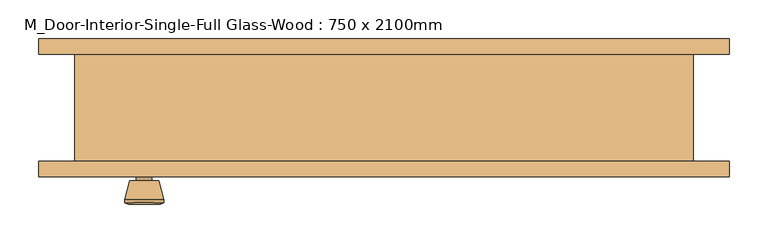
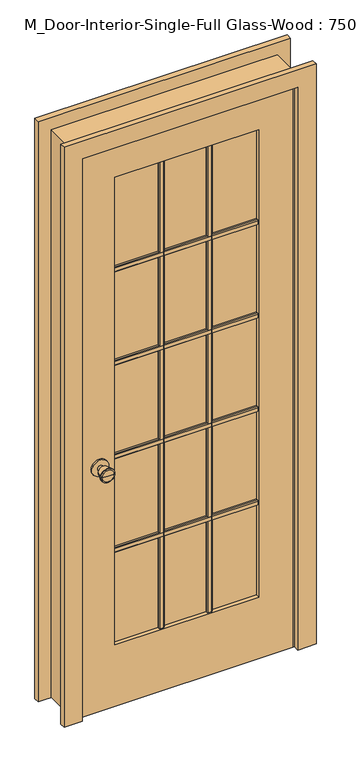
"""IFC4 building model written with IfcOpenShell, lengths in millimetres: door geometry, M_Door-Interior-Single-Full Glass-Wood : 750 x 2100mm."""

from ifc_helpers import new_model, si_unit, point, frame, frame_2d, origin, place, context, project, spatial, polyline, circle_curve, trimmed, segment, composite_curve, outline, extrude, faceted_brep, source, transform, mapped, element, save
from ifc_brep_helpers import plane_surface, cylinder_surface, revolved_surface, advanced_brep


def m_door_interior_single_full_glass_wood_750_x_2100mm_01f99739(model_context):
    return source(origin(), model_context, "Body", "SolidModel", [
        extrude(outline(polyline([(-52.075, 1639.525), (-52.075, 1620.475), (-58.425, 1620.475), (-61.6, 1623.65), (-61.6, 1636.35), (-58.425, 1639.525), (-52.075, 1639.525)])), frame((-255.0, 0.0, 0.0), z_axis=(1.0, 0.0, 0.0), x_axis=(0.0, 1.0, 0.0)), (0.0, 0.0, 1.0), 510.0),
        extrude(outline(polyline([(-52.075, 1289.525), (-52.075, 1270.475), (-58.425, 1270.475), (-61.6, 1273.65), (-61.6, 1286.35), (-58.425, 1289.525), (-52.075, 1289.525)])), frame((-255.0, 0.0, 0.0), z_axis=(1.0, 0.0, 0.0), x_axis=(0.0, 1.0, 0.0)), (0.0, 0.0, 1.0), 510.0),
        extrude(outline(polyline([(-52.075, 939.525), (-52.075, 920.475), (-58.425, 920.475), (-61.6, 923.65), (-61.6, 936.35), (-58.425, 939.525), (-52.075, 939.525)])), frame((-255.0, 0.0, 0.0), z_axis=(1.0, 0.0, 0.0), x_axis=(0.0, 1.0, 0.0)), (0.0, 0.0, 1.0), 510.0),
        extrude(outline(polyline([(-52.075, 589.525), (-52.075, 570.475), (-58.425, 570.475), (-61.6, 573.65), (-61.6, 586.35), (-58.425, 589.525), (-52.075, 589.525)])), frame((-255.0, 0.0, 0.0), z_axis=(1.0, 0.0, 0.0), x_axis=(0.0, 1.0, 0.0)), (0.0, 0.0, 1.0), 510.0),
        extrude(outline(polyline([(75.475, -52.075), (94.525, -52.075), (94.525, -58.425), (91.35, -61.6), (78.65, -61.6), (75.475, -58.425), (75.475, -52.075)])), frame((0.0, 0.0, 230.0), z_axis=(0.0, 0.0, 1.0), x_axis=(1.0, 0.0, 0.0)), (0.0, 0.0, 1.0), 1750.0),
        extrude(outline(polyline([(-94.525, -52.075), (-75.475, -52.075), (-75.475, -58.425), (-78.65, -61.6), (-91.35, -61.6), (-94.525, -58.425), (-94.525, -52.075)])), frame((0.0, 0.0, 230.0), z_axis=(0.0, 0.0, 1.0), x_axis=(1.0, 0.0, 0.0)), (0.0, 0.0, 1.0), 1750.0),
        extrude(outline(polyline([(-45.075, 1639.525), (-38.725, 1639.525), (-35.55, 1636.35), (-35.55, 1623.65), (-38.725, 1620.475), (-45.075, 1620.475), (-45.075, 1639.525)])), frame((-255.0, 0.0, 0.0), z_axis=(1.0, 0.0, 0.0), x_axis=(0.0, 1.0, 0.0)), (0.0, 0.0, 1.0), 510.0),
        extrude(outline(polyline([(-45.075, 1289.525), (-38.725, 1289.525), (-35.55, 1286.35), (-35.55, 1273.65), (-38.725, 1270.475), (-45.075, 1270.475), (-45.075, 1289.525)])), frame((-255.0, 0.0, 0.0), z_axis=(1.0, 0.0, 0.0), x_axis=(0.0, 1.0, 0.0)), (0.0, 0.0, 1.0), 510.0),
        extrude(outline(polyline([(-45.075, 939.525), (-38.725, 939.525), (-35.55, 936.35), (-35.55, 923.65), (-38.725, 920.475), (-45.075, 920.475), (-45.075, 939.525)])), frame((-255.0, 0.0, 0.0), z_axis=(1.0, 0.0, 0.0), x_axis=(0.0, 1.0, 0.0)), (0.0, 0.0, 1.0), 510.0),
        extrude(outline(polyline([(-45.075, 589.525), (-38.725, 589.525), (-35.55, 586.35), (-35.55, 573.65), (-38.725, 570.475), (-45.075, 570.475), (-45.075, 589.525)])), frame((-255.0, 0.0, 0.0), z_axis=(1.0, 0.0, 0.0), x_axis=(0.0, 1.0, 0.0)), (0.0, 0.0, 1.0), 510.0),
        extrude(outline(polyline([(75.475, -45.075), (75.475, -38.725), (78.65, -35.55), (91.35, -35.55), (94.525, -38.725), (94.525, -45.075), (75.475, -45.075)])), frame((0.0, 0.0, 230.0), z_axis=(0.0, 0.0, 1.0), x_axis=(1.0, 0.0, 0.0)), (0.0, 0.0, 1.0), 1750.0),
        extrude(outline(polyline([(-94.525, -45.075), (-94.525, -38.725), (-91.35, -35.55), (-78.65, -35.55), (-75.475, -38.725), (-75.475, -45.075), (-94.525, -45.075)])), frame((0.0, 0.0, 230.0), z_axis=(0.0, 0.0, 1.0), x_axis=(1.0, 0.0, 0.0)), (0.0, 0.0, 1.0), 1750.0),
        advanced_brep(
        [(-310.0, -25.075, 914.4), (-320.0, -25.075, 914.4), (-300.0, -25.075, 914.4), (-289.5241324, 23.925, 914.4), (-330.4758676, 23.925, 914.4), (-310.0, 23.925, 914.4), (-285.0, 22.0971319, 914.4), (-335.0, 22.0971319, 914.4), (-285.0, 18.6334537, 914.4), (-335.0, 18.6334537, 914.4), (-291.363764, -6.075, 914.4), (-328.636236, -6.075, 914.4), (-300.0, -6.075, 914.4), (-320.0, -6.075, 914.4)],
        [
            (0, 1),
            (1, 2, circle_curve(frame((-310.0, -25.075, 914.4), z_axis=(0.0, -1.0, 0.0), x_axis=(-1.0, 0.0, 0.0)), 10.0)),
            (2, 0),
            (2, 1, circle_curve(frame((-310.0, -25.075, 914.4), z_axis=(0.0, -1.0, 0.0), x_axis=(-1.0, 0.0, 0.0)), 10.0)),
            (3, 4, circle_curve(frame((-310.0, 23.925, 914.4), z_axis=(0.0, 1.0, 0.0), x_axis=(-1.0, 0.0, 0.0)), 20.4758676)),
            (4, 5),
            (5, 3),
            (4, 3, circle_curve(frame((-310.0, 23.925, 914.4), z_axis=(0.0, 1.0, 0.0), x_axis=(-1.0, 0.0, 0.0)), 20.4758676)),
            (6, 7, circle_curve(frame((-310.0, 22.0971319, 914.4), z_axis=(0.0, 1.0, 0.0), x_axis=(-1.0, 0.0, 0.0)), 25.0)),
            (7, 4),
            (3, 6),
            (7, 6, circle_curve(frame((-310.0, 22.0971319, 914.4), z_axis=(0.0, 1.0, 0.0), x_axis=(-1.0, 0.0, 0.0)), 25.0)),
            (8, 9, circle_curve(frame((-310.0, 18.6334537, 914.4), z_axis=(0.0, 1.0, 0.0), x_axis=(-1.0, 0.0, 0.0)), 25.0)),
            (9, 7),
            (6, 8),
            (9, 8, circle_curve(frame((-310.0, 18.6334537, 914.4), z_axis=(0.0, 1.0, 0.0), x_axis=(-1.0, 0.0, 0.0)), 25.0)),
            (10, 11, circle_curve(frame((-310.0, -6.075, 914.4), z_axis=(0.0, 1.0, 0.0), x_axis=(-1.0, 0.0, 0.0)), 18.636236)),
            (11, 9),
            (8, 10),
            (11, 10, circle_curve(frame((-310.0, -6.075, 914.4), z_axis=(0.0, 1.0, 0.0), x_axis=(-1.0, 0.0, 0.0)), 18.636236)),
            (12, 13, circle_curve(frame((-310.0, -6.075, 914.4), z_axis=(0.0, 1.0, 0.0), x_axis=(-1.0, 0.0, 0.0)), 10.0)),
            (13, 11),
            (10, 12),
            (13, 12, circle_curve(frame((-310.0, -6.075, 914.4), z_axis=(0.0, 1.0, 0.0), x_axis=(-1.0, 0.0, 0.0)), 10.0)),
            (1, 13),
            (12, 2),
        ],
        [
            plane_surface(frame((-310.0, -25.075, 914.4), z_axis=(0.0, -1.0, 0.0), x_axis=(-1.0, 0.0, 0.0))),
            plane_surface(frame((-310.0, 23.925, 914.4), z_axis=(0.0, 1.0, 0.0), x_axis=(-1.0, 0.0, 0.0))),
            revolved_surface(polyline([(-330.4758676, 23.925, 914.4), (-335.0, 22.0971319, 914.4)]), (-310.0, -25.075, 914.4), (0.0, -1.0, 0.0)),
            cylinder_surface(frame((-310.0, -25.075, 914.4), z_axis=(0.0, -1.0, 0.0), x_axis=(-1.0, 0.0, 0.0)), 25.0),
            revolved_surface(polyline([(-335.0, 18.6334537, 914.4), (-328.636236, -6.075, 914.4)]), (-310.0, -25.075, 914.4), (0.0, -1.0, 0.0)),
            plane_surface(frame((-310.0, -6.075, 914.4), z_axis=(0.0, -1.0, 0.0), x_axis=(-1.0, 0.0, 0.0))),
            cylinder_surface(frame((-310.0, -25.075, 914.4), z_axis=(0.0, -1.0, 0.0), x_axis=(-1.0, 0.0, 0.0)), 10.0),
        ],
        [
            (0, [[1, 2, 3]]),
            (0, [[-3, 4, -1]]),
            (1, [[5, 6, 7]]),
            (1, [[8, -7, -6]]),
            (2, [[9, 10, -5, 11]]),
            (2, [[12, -11, -8, -10]]),
            (3, [[13, 14, -9, 15]]),
            (3, [[16, -15, -12, -14]]),
            (4, [[17, 18, -13, 19]]),
            (4, [[20, -19, -16, -18]]),
            (5, [[21, 22, -17, 23]]),
            (5, [[24, -23, -20, -22]]),
            (6, [[-2, 25, -21, 26]]),
            (6, [[-4, -26, -24, -25]]),
        ],
    ),
        extrude(outline(composite_curve([segment(trimmed(circle_curve(frame_2d((914.4, -310.0)), 30.0), [point((914.4, -340.0))], [point((914.4, -280.0))], False, "CARTESIAN"), True, "CONTINUOUS"), segment(trimmed(circle_curve(frame_2d((914.4, -310.0)), 30.0), [point((914.4, -280.0))], [point((914.4, -340.0))], False, "CARTESIAN"), True, "CONTINUOUS")], self_intersect=False)), frame((0.0, -31.075, 0.0), z_axis=(0.0, 1.0, 0.0), x_axis=(0.0, 0.0, 1.0)), (0.0, 0.0, 1.0), 6.0),
        advanced_brep(
        [(-310.0, -72.075, 914.4), (-300.0, -72.075, 914.4), (-320.0, -72.075, 914.4), (-289.5241324, -121.075, 914.4), (-310.0, -121.075, 914.4), (-330.4758676, -121.075, 914.4), (-285.0, -119.2471319, 914.4), (-335.0, -119.2471319, 914.4), (-285.0, -115.7834537, 914.4), (-335.0, -115.7834537, 914.4), (-291.363764, -91.075, 914.4), (-328.636236, -91.075, 914.4), (-300.0, -91.075, 914.4), (-320.0, -91.075, 914.4)],
        [
            (0, 1),
            (1, 2, circle_curve(frame((-310.0, -72.075, 914.4), z_axis=(0.0, 1.0, 0.0), x_axis=(-1.0, 0.0, 0.0)), 10.0)),
            (2, 0),
            (2, 1, circle_curve(frame((-310.0, -72.075, 914.4), z_axis=(0.0, 1.0, 0.0), x_axis=(-1.0, 0.0, 0.0)), 10.0)),
            (3, 4),
            (4, 5),
            (5, 3, circle_curve(frame((-310.0, -121.075, 914.4), z_axis=(0.0, -1.0, 0.0), x_axis=(-1.0, 0.0, 0.0)), 20.4758676)),
            (3, 5, circle_curve(frame((-310.0, -121.075, 914.4), z_axis=(0.0, -1.0, 0.0), x_axis=(-1.0, 0.0, 0.0)), 20.4758676)),
            (6, 3),
            (5, 7),
            (7, 6, circle_curve(frame((-310.0, -119.2471319, 914.4), z_axis=(0.0, -1.0, 0.0), x_axis=(-1.0, 0.0, 0.0)), 25.0)),
            (6, 7, circle_curve(frame((-310.0, -119.2471319, 914.4), z_axis=(0.0, -1.0, 0.0), x_axis=(-1.0, 0.0, 0.0)), 25.0)),
            (8, 6),
            (7, 9),
            (9, 8, circle_curve(frame((-310.0, -115.7834537, 914.4), z_axis=(0.0, -1.0, 0.0), x_axis=(-1.0, 0.0, 0.0)), 25.0)),
            (8, 9, circle_curve(frame((-310.0, -115.7834537, 914.4), z_axis=(0.0, -1.0, 0.0), x_axis=(-1.0, 0.0, 0.0)), 25.0)),
            (10, 8),
            (9, 11),
            (11, 10, circle_curve(frame((-310.0, -91.075, 914.4), z_axis=(0.0, -1.0, 0.0), x_axis=(-1.0, 0.0, 0.0)), 18.636236)),
            (10, 11, circle_curve(frame((-310.0, -91.075, 914.4), z_axis=(0.0, -1.0, 0.0), x_axis=(-1.0, 0.0, 0.0)), 18.636236)),
            (12, 10),
            (11, 13),
            (13, 12, circle_curve(frame((-310.0, -91.075, 914.4), z_axis=(0.0, -1.0, 0.0), x_axis=(-1.0, 0.0, 0.0)), 10.0)),
            (12, 13, circle_curve(frame((-310.0, -91.075, 914.4), z_axis=(0.0, -1.0, 0.0), x_axis=(-1.0, 0.0, 0.0)), 10.0)),
            (1, 12),
            (13, 2),
        ],
        [
            plane_surface(frame((-310.0, -72.075, 914.4), z_axis=(0.0, 1.0, 0.0), x_axis=(-1.0, 0.0, 0.0))),
            plane_surface(frame((-310.0, -121.075, 914.4), z_axis=(0.0, -1.0, 0.0), x_axis=(-1.0, 0.0, 0.0))),
            revolved_surface(polyline([(-330.4758676, -121.075, 914.4), (-335.0, -119.2471319, 914.4)]), (-310.0, -72.075, 914.4), (0.0, 1.0, 0.0)),
            cylinder_surface(frame((-310.0, -72.075, 914.4), z_axis=(0.0, 1.0, 0.0), x_axis=(-1.0, 0.0, 0.0)), 25.0),
            revolved_surface(polyline([(-335.0, -115.7834537, 914.4), (-328.636236, -91.075, 914.4)]), (-310.0, -72.075, 914.4), (0.0, 1.0, 0.0)),
            plane_surface(frame((-310.0, -91.075, 914.4), z_axis=(0.0, 1.0, 0.0), x_axis=(-1.0, 0.0, 0.0))),
            cylinder_surface(frame((-310.0, -72.075, 914.4), z_axis=(0.0, 1.0, 0.0), x_axis=(-1.0, 0.0, 0.0)), 10.0),
        ],
        [
            (0, [[1, 2, 3]]),
            (0, [[-3, 4, -1]]),
            (1, [[5, 6, 7]]),
            (1, [[-6, -5, 8]]),
            (2, [[9, -7, 10, 11]]),
            (2, [[-10, -8, -9, 12]]),
            (3, [[13, -11, 14, 15]]),
            (3, [[-14, -12, -13, 16]]),
            (4, [[17, -15, 18, 19]]),
            (4, [[-18, -16, -17, 20]]),
            (5, [[21, -19, 22, 23]]),
            (5, [[-22, -20, -21, 24]]),
            (6, [[25, -23, 26, -2]]),
            (6, [[-26, -24, -25, -4]]),
        ],
    ),
        extrude(outline(composite_curve([segment(trimmed(circle_curve(frame_2d((914.4, -310.0)), 30.0), [point((914.4, -340.0))], [point((914.4, -280.0))], False, "CARTESIAN"), True, "CONTINUOUS"), segment(trimmed(circle_curve(frame_2d((914.4, -310.0)), 30.0), [point((914.4, -280.0))], [point((914.4, -340.0))], False, "CARTESIAN"), True, "CONTINUOUS")], self_intersect=False)), frame((0.0, -72.075, 0.0), z_axis=(0.0, 1.0, 0.0), x_axis=(0.0, 0.0, 1.0)), (0.0, 0.0, 1.0), 6.0),
        extrude(outline(polyline([(2100.0, -375.0), (0.0, -375.0), (0.0, 375.0), (2100.0, 375.0), (2100.0, -375.0)]), holes=[polyline([(1980.0, -255.0), (1980.0, 255.0), (230.0, 255.0), (230.0, -255.0), (1980.0, -255.0)])]), frame((0.0, -66.075, 0.0), z_axis=(0.0, 1.0, 0.0), x_axis=(0.0, 0.0, 1.0)), (0.0, 0.0, 1.0), 35.0),
        faceted_brep([(400.0, -66.075, 0.0), (375.0, -66.075, 0.0), (375.0, -31.075, 0.0), (362.3, -31.075, 0.0), (362.3, 3.85, 0.0), (375.0, 3.85, 0.0), (375.0, 72.425, 0.0), (400.0, 72.425, 0.0), (400.0, 72.425, 2125.0), (400.0, -66.075, 2125.0), (375.0, 72.425, 2100.0), (-375.0, 72.425, 2100.0), (-375.0, 72.425, 0.0), (-400.0, 72.425, 0.0), (-400.0, 72.425, 2125.0), (375.0, 3.85, 2100.0), (362.3, 3.85, 2087.3), (-362.3, 3.85, 2087.3), (-362.3, 3.85, 0.0), (-375.0, 3.85, 0.0), (-375.0, 3.85, 2100.0), (362.3, -31.075, 2087.3), (375.0, -31.075, 2100.0), (-375.0, -31.075, 2100.0), (-375.0, -31.075, 0.0), (-362.3, -31.075, 0.0), (-362.3, -31.075, 2087.3), (375.0, -66.075, 2100.0), (-400.0, -66.075, 2125.0), (-400.0, -66.075, 0.0), (-375.0, -66.075, 0.0), (-375.0, -66.075, 2100.0)], [[[0, 1, 2, 3, 4, 5, 6, 7]], [[7, 8, 9, 0]], [[6, 10, 11, 12, 13, 14, 8, 7]], [[5, 15, 10, 6]], [[4, 16, 17, 18, 19, 20, 15, 5]], [[3, 21, 16, 4]], [[2, 22, 23, 24, 25, 26, 21, 3]], [[1, 27, 22, 2]], [[0, 9, 28, 29, 30, 31, 27, 1]], [[8, 14, 28, 9]], [[15, 20, 11, 10]], [[21, 26, 17, 16]], [[27, 31, 23, 22]], [[29, 13, 12, 19, 18, 25, 24, 30]], [[14, 13, 29, 28]], [[20, 19, 12, 11]], [[26, 25, 18, 17]], [[31, 30, 24, 23]]]),
        extrude(outline(polyline([(255.0, -45.075), (255.0, -52.075), (-255.0, -52.075), (-255.0, -45.075), (255.0, -45.075)])), frame((0.0, 0.0, 230.0), z_axis=(0.0, 0.0, 1.0), x_axis=(1.0, 0.0, 0.0)), (0.0, 0.0, 1.0), 1750.0),
        extrude(outline(polyline([(0.0, 446.35), (2171.35, 446.35), (2171.35, -446.35), (0.0, -446.35), (0.0, -381.35), (2106.35, -381.35), (2106.35, 381.35), (0.0, 381.35), (0.0, 446.35)])), frame((0.0, 72.425, 0.0), z_axis=(0.0, 1.0, 0.0), x_axis=(0.0, 0.0, 1.0)), (0.0, 0.0, 1.0), 20.0),
        extrude(outline(polyline([(0.0, 446.35), (2171.35, 446.35), (2171.35, -446.35), (0.0, -446.35), (0.0, -381.35), (2106.35, -381.35), (2106.35, 381.35), (0.0, 381.35), (0.0, 446.35)])), frame((0.0, -86.075, 0.0), z_axis=(0.0, 1.0, 0.0), x_axis=(0.0, 0.0, 1.0)), (0.0, 0.0, 1.0), 20.0),
    ])


if __name__ == "__main__":
    model = new_model("IFC4")
    model_context = context("Model", 3, world=origin())
    ifc_project = project(units=[si_unit("LENGTHUNIT", "METRE", prefix="MILLI")], contexts=[model_context])
    site = spatial("IfcSite", under=ifc_project)
    building = spatial("IfcBuilding", under=site)
    placement = place(None, origin())
    m_door_interior_single_full_glass_wood_750_x_2100mm_shape = m_door_interior_single_full_glass_wood_750_x_2100mm_01f99739(model_context)
    element("IfcDoor", 1, ObjectType="M_Door-Interior-Single-Full Glass-Wood : 750 x 2100mm", at=placement, inside=building, context=model_context, shape_type="MappedRepresentation", body=[
        mapped(m_door_interior_single_full_glass_wood_750_x_2100mm_shape, transform((0.0, 0.0, 0.0), x_axis=(1.0, 0.0, 0.0), y_axis=(0.0, 1.0, 0.0), z_axis=(0.0, 0.0, 1.0))),
    ])
    save(model, "model.ifc")
